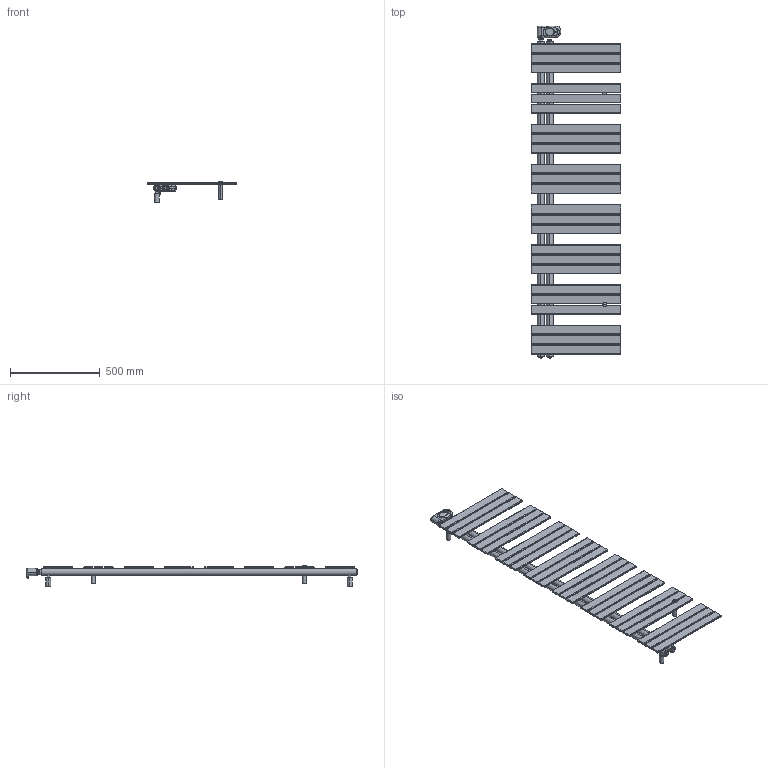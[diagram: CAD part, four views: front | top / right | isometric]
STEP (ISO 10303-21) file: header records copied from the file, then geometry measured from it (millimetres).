
FILE_DESCRIPTION((''),'2;1');
FILE_NAME('3581726105036_3D_SITO_ASM','2023-10-16T14:20:16',('PC132'),(''),'CREO PARAMETRIC BY PTC INC, 2023092','CREO PARAMETRIC BY PTC INC, 2023092','');
FILE_SCHEMA(('AUTOMOTIVE_DESIGN { 1 0 10303 214 1 1 1 1 }'));
Products named in the file (8): 2551720500004_3D_SITO; 1010181240001; 1117000001010; 1035270000037_FRONT; 1035270000037_BACK; 1035270000021_ASM; BOTT_GIUNTO_KELLY_RAD50X10; 3581726105036_3D_SITO_ASM
Assembly tree (9 placements, depth 3):
  3581726105036_3D_SITO_ASM
    2551720500004_3D_SITO
    1010181240001  x3
    1117000001010
    1035270000021_ASM
      1035270000037_FRONT
      1035270000037_BACK
    BOTT_GIUNTO_KELLY_RAD50X10
Bounding box: 500 x 1850 x 115.5 mm (x, y, z)
Volume: 10418165 mm3; surface area: 1941968.1 mm2
Topology: 34 solids, 36 shells, 1112 faces, 2522 edges, 1505 vertices
Faces by surface type: cylinder 432, plane 300, bspline 249, torus 58, cone 50, sphere 23
Entity records: 55009 total; most frequent: CARTESIAN_POINT 19328, DIRECTION 5335, ORIENTED_EDGE 4602, PRESENTATION_STYLE_ASSIGNMENT 2313, STYLED_ITEM 2309, EDGE_CURVE 2306, CURVE_STYLE 2279, AXIS2_PLACEMENT_3D 2125
